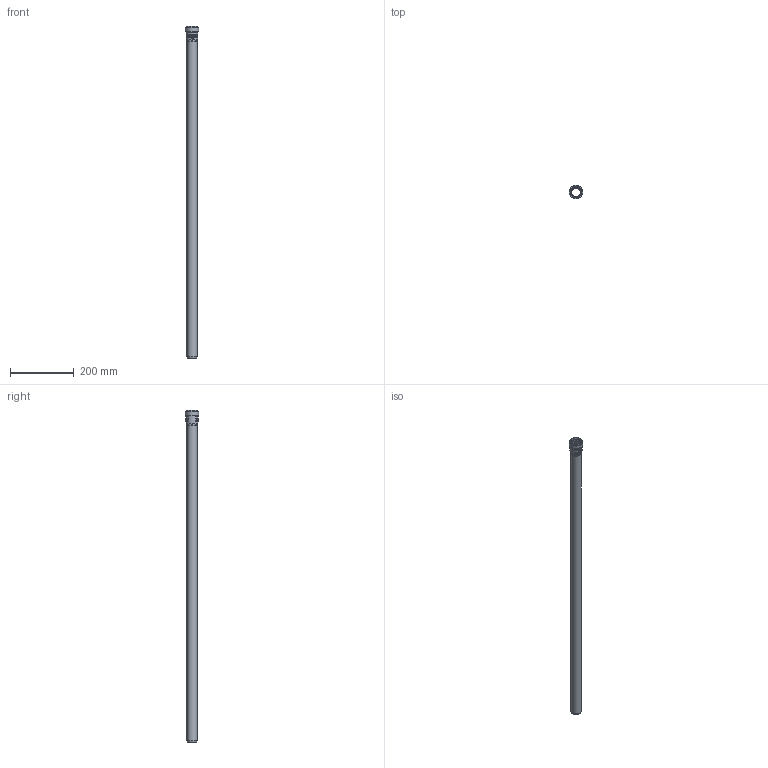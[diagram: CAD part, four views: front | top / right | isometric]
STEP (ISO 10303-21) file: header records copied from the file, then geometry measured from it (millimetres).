
FILE_DESCRIPTION(/* description */ (''),/* implementation_level */ '2;1');
FILE_NAME(/* name */ 'Z:\Geberit\Export\NewStep\390004.stp',/* time_stamp */ '2014-04-02T08:07:49+02:00',/* author */ ('ML'),/* organization */ (''),/* preprocessor_version */ 'ST-DEVELOPER v15.2',/* originating_system */ 'Autodesk Inventor 2014',/* authorisation */ '');
FILE_SCHEMA (('AUTOMOTIVE_DESIGN { 1 0 10303 214 3 1 1 }'));
Length unit declared in the file: millimetre
Products named in the file (3): 861662; 861580ohne; 390004
Bounding box: 41.8 x 41.8 x 1044.3 mm (x, y, z)
Volume: 201198.8 mm3; surface area: 202208.2 mm2
Topology: 2 solids, 2 shells, 47 faces, 104 edges, 71 vertices
Faces by surface type: torus 24, cylinder 11, plane 10, cone 2
Full cylindrical faces by diameter (mm): 28.15 x2, 32.15 x2, 32.8 x2, 34.8 x1, 36.8 x2, 37.8 x1, 41.8 x1
Entity records: 1971 total; most frequent: CARTESIAN_POINT 930, DIRECTION 182, ORIENTED_EDGE 174, AXIS2_PLACEMENT_3D 91, EDGE_CURVE 87, EDGE_LOOP 78, VERTEX_POINT 71, STYLED_ITEM 49
